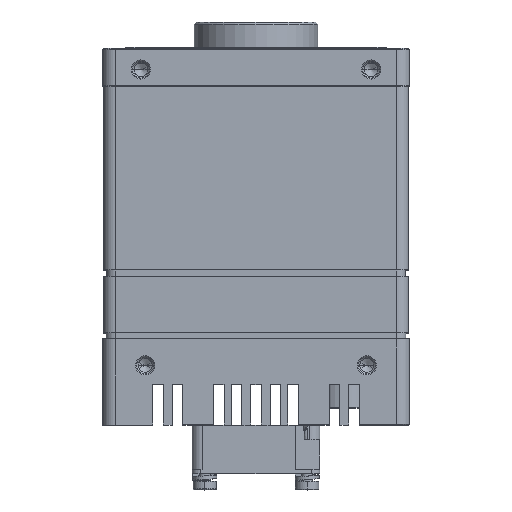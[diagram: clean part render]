
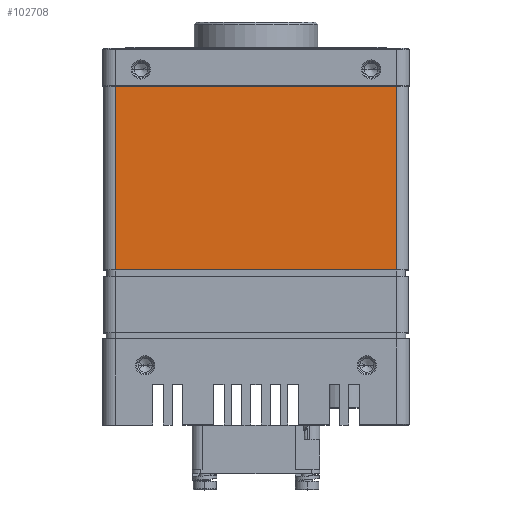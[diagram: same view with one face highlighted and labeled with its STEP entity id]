
A CAD part, top view. The second image highlights one B-rep face of the part: STEP entity #102708.
In plain terms, the highlighted planar face has unit normal (0, 0, 1) as drawn and (0, 0, -1) by its records, which use the part's own axes.
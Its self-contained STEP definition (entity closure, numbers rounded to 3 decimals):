
#55674=DIRECTION('',(-1.,0.,0.));
#55675=VECTOR('',#55674,66.);
#55676=CARTESIAN_POINT('',(33.,-55.1,-35.8));
#55677=LINE('',#55676,#55675);
#56598=DIRECTION('',(0.,-1.,0.));
#56599=VECTOR('',#56598,43.1);
#56600=CARTESIAN_POINT('',(33.,-12.,-35.8));
#56601=LINE('',#56600,#56599);
#57576=DIRECTION('',(0.,1.,0.));
#57577=VECTOR('',#57576,43.1);
#57578=CARTESIAN_POINT('',(-33.,-55.1,-35.8));
#57579=LINE('',#57578,#57577);
#57605=DIRECTION('',(-1.,0.,0.));
#57606=VECTOR('',#57605,66.);
#57607=CARTESIAN_POINT('',(33.,-12.,-35.8));
#57608=LINE('',#57607,#57606);
#70845=CARTESIAN_POINT('',(33.,-55.1,-35.8));
#70846=VERTEX_POINT('',#70845);
#70847=CARTESIAN_POINT('',(-33.,-55.1,-35.8));
#70848=VERTEX_POINT('',#70847);
#77015=CARTESIAN_POINT('',(33.,-12.,-35.8));
#77016=CARTESIAN_POINT('',(-33.,-12.,-35.8));
#77017=VERTEX_POINT('',#77015);
#77018=VERTEX_POINT('',#77016);
#102697=CARTESIAN_POINT('',(-33.,-10.,-35.8));
#102698=DIRECTION('',(0.,0.,1.));
#102699=DIRECTION('',(1.,0.,0.));
#102700=AXIS2_PLACEMENT_3D('',#102697,#102698,#102699);
#102701=PLANE('',#102700);
#102702=ORIENTED_EDGE('',*,*,#102688,.T.);
#102703=ORIENTED_EDGE('',*,*,#102663,.F.);
#102704=ORIENTED_EDGE('',*,*,#101129,.F.);
#102705=ORIENTED_EDGE('',*,*,#101848,.F.);
#102706=EDGE_LOOP('',(#102702,#102703,#102704,#102705));
#102707=FACE_OUTER_BOUND('',#102706,.F.);
#102708=ADVANCED_FACE('',(#102707),#102701,.F.);
#101129=EDGE_CURVE('',#70846,#70848,#55677,.T.);
#101848=EDGE_CURVE('',#77017,#70846,#56601,.T.);
#102663=EDGE_CURVE('',#70848,#77018,#57579,.T.);
#102688=EDGE_CURVE('',#77017,#77018,#57608,.T.);
